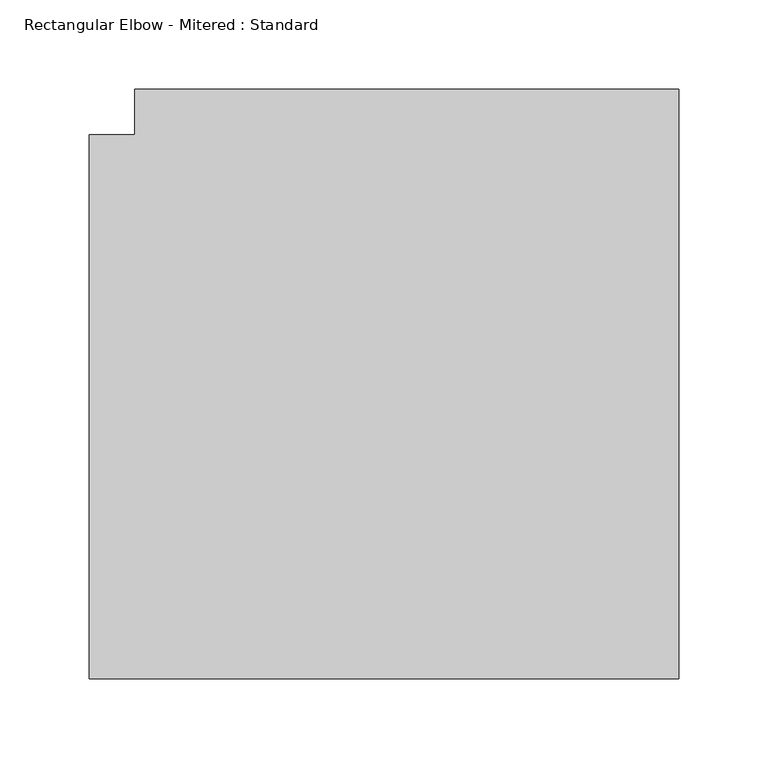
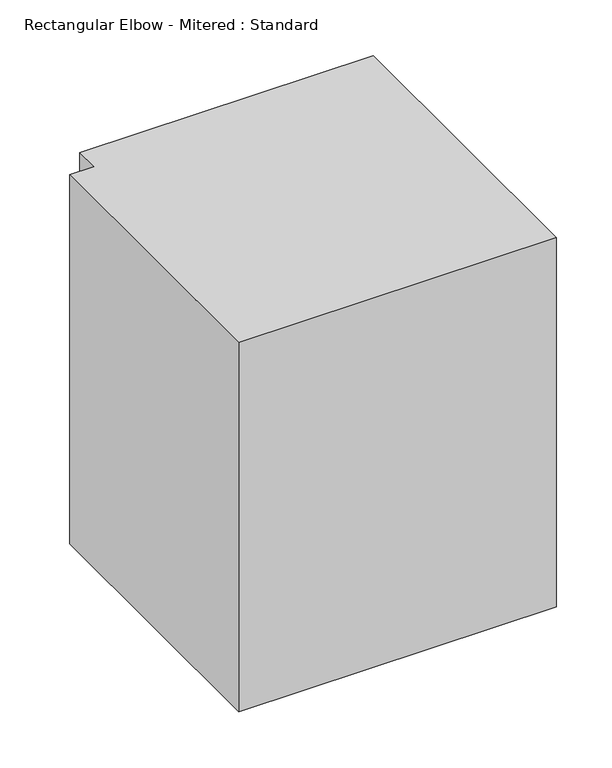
"""IFC4 building model written with IfcOpenShell, lengths in millimetres: duct fitting geometry, Rectangular Elbow - Mitered : Standard."""

from ifc_helpers import new_model, si_unit, frame, origin, place, context, project, spatial, polyline, outline, extrude, source, transform, mapped, element, save


def rectangular_elbow_mitered_standard_c070aa60(model_context):
    return source(origin(), model_context, "Body", "SweptSolid", [
        extrude(outline(polyline([(-177.8, -152.4), (-177.8, 152.4), (-152.4, 152.4), (-152.4, 177.8), (152.4, 177.8), (152.4, -152.4), (-177.8, -152.4)])), frame((0.0, 0.0, -203.2), z_axis=(0.0, 0.0, 1.0), x_axis=(1.0, 0.0, 0.0)), (0.0, 0.0, 1.0), 406.4),
    ])


if __name__ == "__main__":
    model = new_model("IFC4")
    model_context = context("Model", 3, world=origin())
    ifc_project = project(units=[si_unit("LENGTHUNIT", "METRE", prefix="MILLI")], contexts=[model_context])
    site = spatial("IfcSite", under=ifc_project)
    building = spatial("IfcBuilding", under=site)
    placement = place(None, origin())
    rectangular_elbow_mitered_standard_shape = rectangular_elbow_mitered_standard_c070aa60(model_context)
    element("IfcDuctFitting", 1, ObjectType="Rectangular Elbow - Mitered : Standard", at=placement, inside=building, context=model_context, shape_type="MappedRepresentation", body=[
        mapped(rectangular_elbow_mitered_standard_shape, transform((0.0, 0.0, 0.0), x_axis=(1.0, 0.0, 0.0), y_axis=(0.0, 1.0, 0.0), z_axis=(0.0, 0.0, 1.0))),
    ])
    save(model, "model.ifc")
